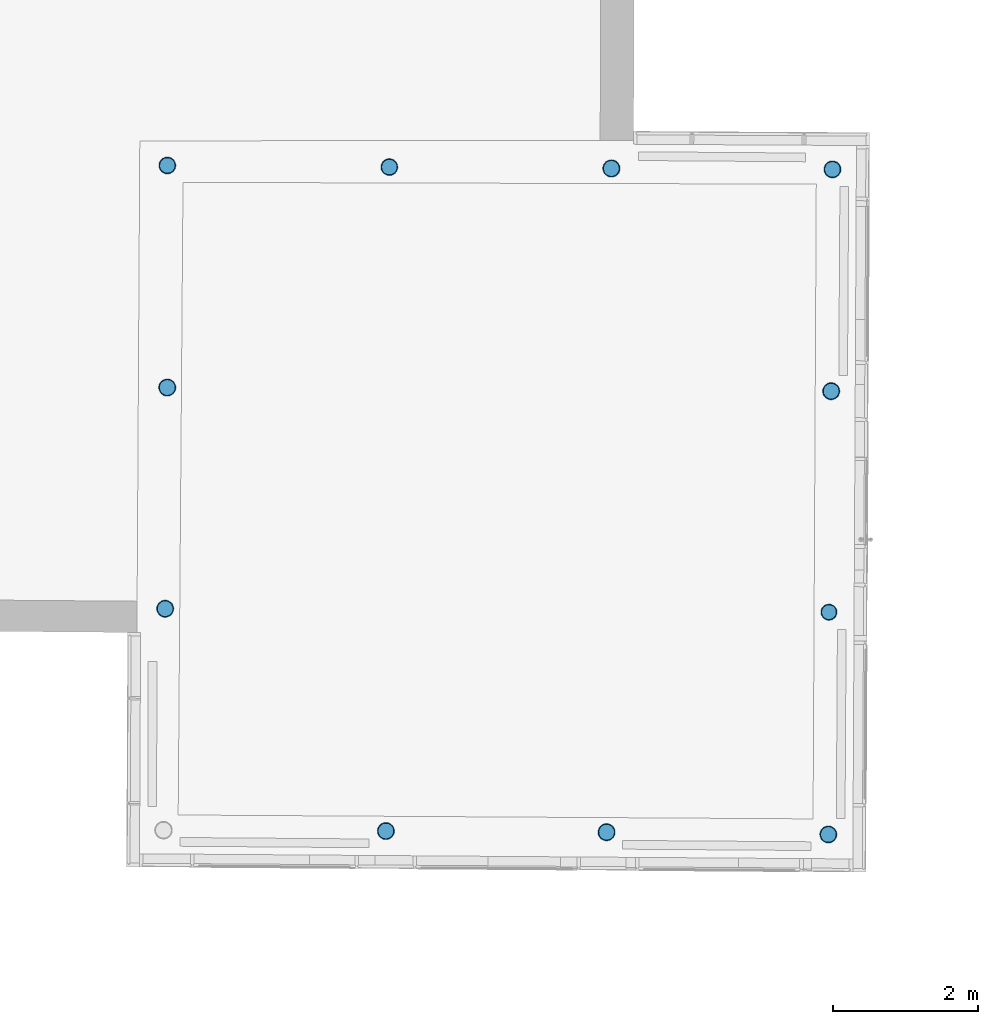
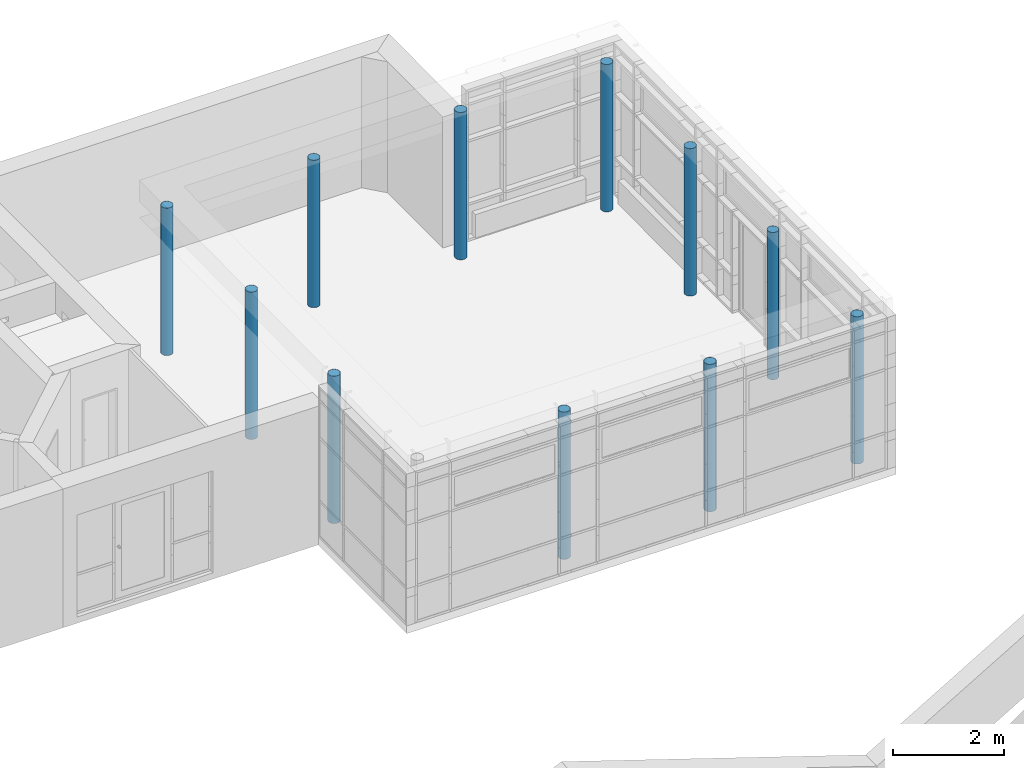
# One storey, part 63 of 196: 22 building element parts, 11 elements without a shape of their own.
"""IFC2X3 building model written with IfcOpenShell, lengths in metres."""

from ifc_helpers import new_model, entity, si_unit, converted_unit, derived_unit, money_unit, direction, frame, origin_with_axes, origin_2d_with_axis, place, context, subcontext, project, spatial, circle, hollow_circle, extrude, material, type_object, element, aggregate, save


model = new_model("IFC2X3")

# Units and contexts
model_context = context("Model", 3, precision=1e-05, world=origin_with_axes(), true_north=direction((0.0, 1.0)))
body_context = subcontext(model_context, "Body", "Model", "MODEL_VIEW")
ifc_project = project(units=[si_unit("LENGTHUNIT", "METRE"), si_unit("AREAUNIT", "SQUARE_METRE"), si_unit("VOLUMEUNIT", "CUBIC_METRE"), converted_unit("PLANEANGLEUNIT", "DEGREE", entity("IfcPlaneAngleMeasure", 0.0174532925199), si_unit("PLANEANGLEUNIT", "RADIAN"), dimensions=[0, 0, 0, 0, 0, 0, 0]), money_unit("EUR"), converted_unit("TIMEUNIT", "Year", entity("IfcTimeMeasure", 31556926.0), si_unit("TIMEUNIT", "SECOND"), dimensions=[0, 0, 1, 0, 0, 0, 0]), si_unit("MASSUNIT", "GRAM", prefix="KILO"), si_unit("THERMODYNAMICTEMPERATUREUNIT", "DEGREE_CELSIUS"), si_unit("LUMINOUSINTENSITYUNIT", "LUMEN"), si_unit("ENERGYUNIT", "JOULE", prefix="MEGA"), derived_unit("THERMALCONDUCTANCEUNIT", [(si_unit("POWERUNIT", "WATT"), 1), (si_unit("LENGTHUNIT", "METRE"), -1), (si_unit("THERMODYNAMICTEMPERATUREUNIT", "KELVIN"), -1)]), derived_unit("SPECIFICHEATCAPACITYUNIT", [(si_unit("ENERGYUNIT", "JOULE"), 1), (si_unit("MASSUNIT", "GRAM", prefix="KILO"), -1), (si_unit("THERMODYNAMICTEMPERATUREUNIT", "KELVIN"), -1)]), derived_unit("MASSDENSITYUNIT", [(si_unit("MASSUNIT", "GRAM", prefix="KILO"), 1), (si_unit("VOLUMEUNIT", "CUBIC_METRE"), -1)])], contexts=[model_context])

# Site, building, storey
site_placement = place(None, origin_with_axes())
site = spatial("IfcSite", under=ifc_project, at=site_placement, Name="Gelände", CompositionType="ELEMENT")
building_placement = place(site_placement, origin_with_axes())
building = spatial("IfcBuilding", under=site, at=building_placement, Name="Gebäude", CompositionType="ELEMENT")
storey_placement = place(building_placement, frame((0.0, 0.0, -3.0), z_axis=(0.0, 0.0, 1.0), x_axis=(1.0, 0.0, 0.0)))
storey = spatial("IfcBuildingStorey", under=building, at=storey_placement, Name="KELLERGESCHOSS", CompositionType="ELEMENT", Elevation=-3.0)

# Column, building element parts
column_type_1 = type_object("IfcColumnType", Name="56_Metall, Stahl verzinkt D219", PredefinedType="COLUMN")
column_1_placement = place(storey_placement, frame((8.67332883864, 39.2869997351, 0.609445), z_axis=(0.0, 0.0, 1.0), x_axis=(1.0, 0.0, 0.0)))
column_1 = element("IfcColumn", 1, at=column_1_placement, inside=storey, type_object=column_type_1, Name="Stütze-008", ObjectType="COLUMN")
ifc_material = material(Name="56_Metall, Stahl verzinkt")
building_element_part_1_placement = place(column_1_placement, origin_with_axes())
building_element_part_1 = element("IfcBuildingElementPart", 2, at=building_element_part_1_placement, material=ifc_material, Name="56_Metall, Stahl verzinkt", context=body_context, shape_type="SweptSolid", body=[
    extrude(hollow_circle(Radius=0.109288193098, WallThickness=0.005, at=origin_2d_with_axis()), frame((0.0, 0.0, 0.0), z_axis=(0.0, 0.0, 1.0), x_axis=(0.0198104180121, -0.999803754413, 0.0)), (0.0, 0.0, 1.0), 3.250555),
])
building_element_part_2_placement = place(column_1_placement, origin_with_axes())
building_element_part_2 = element("IfcBuildingElementPart", 3, at=building_element_part_2_placement, material=ifc_material, Name="56_Metall, Stahl verzinkt", context=body_context, shape_type="SweptSolid", body=[
    extrude(circle(Radius=0.104288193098, at=origin_2d_with_axis()), frame((0.0, 0.0, 0.0), z_axis=(0.0, 0.0, 1.0), x_axis=(0.0198104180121, -0.999803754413, 0.0)), (0.0, 0.0, 1.0), 3.250555),
])
aggregate(column_1, [building_element_part_1, building_element_part_2])

column_type_2 = type_object("IfcColumnType", Name="56_Metall, Stahl verzinkt D233", PredefinedType="COLUMN")
column_2_placement = place(storey_placement, frame((5.61448594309, 36.2604159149, 0.609445), z_axis=(0.0, 0.0, 1.0), x_axis=(1.0, 0.0, 0.0)))
column_2 = element("IfcColumn", 4, at=column_2_placement, inside=storey, type_object=column_type_2, Name="Stütze-008", ObjectType="COLUMN")
building_element_part_3_placement = place(column_2_placement, origin_with_axes())
building_element_part_3 = element("IfcBuildingElementPart", 5, at=building_element_part_3_placement, material=ifc_material, Name="56_Metall, Stahl verzinkt", context=body_context, shape_type="SweptSolid", body=[
    extrude(hollow_circle(Radius=0.116274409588, WallThickness=0.005, at=origin_2d_with_axis()), frame((0.0, 0.0, 0.0), z_axis=(0.0, 0.0, 1.0), x_axis=(0.0198104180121, -0.999803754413, 0.0)), (0.0, 0.0, 1.0), 3.250555),
])
building_element_part_4_placement = place(column_2_placement, origin_with_axes())
building_element_part_4 = element("IfcBuildingElementPart", 6, at=building_element_part_4_placement, material=ifc_material, Name="56_Metall, Stahl verzinkt", context=body_context, shape_type="SweptSolid", body=[
    extrude(circle(Radius=0.111274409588, at=origin_2d_with_axis()), frame((0.0, 0.0, 0.0), z_axis=(0.0, 0.0, 1.0), x_axis=(0.0198104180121, -0.999803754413, 0.0)), (0.0, 0.0, 1.0), 3.250555),
])
aggregate(column_2, [building_element_part_3, building_element_part_4])

column_type_3 = type_object("IfcColumnType", Name="56_Metall, Stahl verzinkt D231", PredefinedType="COLUMN")
column_3_placement = place(storey_placement, frame((2.57885203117, 36.2764474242, 0.609445), z_axis=(0.0, 0.0, 1.0), x_axis=(1.0, 0.0, 0.0)))
column_3 = element("IfcColumn", 7, at=column_3_placement, inside=storey, type_object=column_type_3, Name="Stütze-008", ObjectType="COLUMN")
building_element_part_5_placement = place(column_3_placement, origin_with_axes())
building_element_part_5 = element("IfcBuildingElementPart", 8, at=building_element_part_5_placement, material=ifc_material, Name="56_Metall, Stahl verzinkt", context=body_context, shape_type="SweptSolid", body=[
    extrude(hollow_circle(Radius=0.115614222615, WallThickness=0.005, at=origin_2d_with_axis()), frame((0.0, 0.0, 0.0), z_axis=(0.0, 0.0, 1.0), x_axis=(0.0198104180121, -0.999803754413, 0.0)), (0.0, 0.0, 1.0), 3.250555),
])
building_element_part_6_placement = place(column_3_placement, origin_with_axes())
building_element_part_6 = element("IfcBuildingElementPart", 9, at=building_element_part_6_placement, material=ifc_material, Name="56_Metall, Stahl verzinkt", context=body_context, shape_type="SweptSolid", body=[
    extrude(circle(Radius=0.110614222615, at=origin_2d_with_axis()), frame((0.0, 0.0, 0.0), z_axis=(0.0, 0.0, 1.0), x_axis=(0.0198104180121, -0.999803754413, 0.0)), (0.0, 0.0, 1.0), 3.250555),
])
aggregate(column_3, [building_element_part_5, building_element_part_6])

column_type_4 = type_object("IfcColumnType", Name="56_Metall, Stahl verzinkt D232", PredefinedType="COLUMN")
column_4_placement = place(storey_placement, frame((-0.427959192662, 42.3772171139, 0.609445), z_axis=(0.0, 0.0, 1.0), x_axis=(1.0, 0.0, 0.0)))
column_4 = element("IfcColumn", 10, at=column_4_placement, inside=storey, type_object=column_type_4, Name="Stütze-008", ObjectType="COLUMN")
building_element_part_7_placement = place(column_4_placement, origin_with_axes())
building_element_part_7 = element("IfcBuildingElementPart", 11, at=building_element_part_7_placement, material=ifc_material, Name="56_Metall, Stahl verzinkt", context=body_context, shape_type="SweptSolid", body=[
    extrude(hollow_circle(Radius=0.116248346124, WallThickness=0.005, at=origin_2d_with_axis()), frame((0.0, 0.0, 0.0), z_axis=(0.0, 0.0, 1.0), x_axis=(0.0198104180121, -0.999803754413, 0.0)), (0.0, 0.0, 1.0), 3.250555),
])
building_element_part_8_placement = place(column_4_placement, origin_with_axes())
building_element_part_8 = element("IfcBuildingElementPart", 12, at=building_element_part_8_placement, material=ifc_material, Name="56_Metall, Stahl verzinkt", context=body_context, shape_type="SweptSolid", body=[
    extrude(circle(Radius=0.111248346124, at=origin_2d_with_axis()), frame((0.0, 0.0, 0.0), z_axis=(0.0, 0.0, 1.0), x_axis=(0.0198104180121, -0.999803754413, 0.0)), (0.0, 0.0, 1.0), 3.250555),
])
aggregate(column_4, [building_element_part_7, building_element_part_8])

column_5_placement = place(storey_placement, frame((8.66540223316, 36.2296116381, 0.609445), z_axis=(0.0, 0.0, 1.0), x_axis=(1.0, 0.0, 0.0)))
column_5 = element("IfcColumn", 13, at=column_5_placement, inside=storey, type_object=column_type_3, Name="Stütze-008", ObjectType="COLUMN")
building_element_part_9_placement = place(column_5_placement, origin_with_axes())
building_element_part_9 = element("IfcBuildingElementPart", 14, at=building_element_part_9_placement, material=ifc_material, Name="56_Metall, Stahl verzinkt", context=body_context, shape_type="SweptSolid", body=[
    extrude(hollow_circle(Radius=0.115614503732, WallThickness=0.005, at=origin_2d_with_axis()), frame((0.0, 0.0, 0.0), z_axis=(0.0, 0.0, 1.0), x_axis=(0.0198104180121, -0.999803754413, 0.0)), (0.0, 0.0, 1.0), 3.250555),
])
building_element_part_10_placement = place(column_5_placement, origin_with_axes())
building_element_part_10 = element("IfcBuildingElementPart", 15, at=building_element_part_10_placement, material=ifc_material, Name="56_Metall, Stahl verzinkt", context=body_context, shape_type="SweptSolid", body=[
    extrude(circle(Radius=0.110614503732, at=origin_2d_with_axis()), frame((0.0, 0.0, 0.0), z_axis=(0.0, 0.0, 1.0), x_axis=(0.0198104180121, -0.999803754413, 0.0)), (0.0, 0.0, 1.0), 3.250555),
])
aggregate(column_5, [building_element_part_9, building_element_part_10])

column_6_placement = place(storey_placement, frame((-0.45714551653, 39.3344400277, 0.609445), z_axis=(0.0, 0.0, 1.0), x_axis=(1.0, 0.0, 0.0)))
column_6 = element("IfcColumn", 16, at=column_6_placement, inside=storey, type_object=column_type_3, Name="Stütze-008", ObjectType="COLUMN")
building_element_part_11_placement = place(column_6_placement, origin_with_axes())
building_element_part_11 = element("IfcBuildingElementPart", 17, at=building_element_part_11_placement, material=ifc_material, Name="56_Metall, Stahl verzinkt", context=body_context, shape_type="SweptSolid", body=[
    extrude(hollow_circle(Radius=0.115402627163, WallThickness=0.005, at=origin_2d_with_axis()), frame((0.0, 0.0, 0.0), z_axis=(0.0, 0.0, 1.0), x_axis=(0.0198104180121, -0.999803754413, 0.0)), (0.0, 0.0, 1.0), 3.250555),
])
building_element_part_12_placement = place(column_6_placement, origin_with_axes())
building_element_part_12 = element("IfcBuildingElementPart", 18, at=building_element_part_12_placement, material=ifc_material, Name="56_Metall, Stahl verzinkt", context=body_context, shape_type="SweptSolid", body=[
    extrude(circle(Radius=0.110402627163, at=origin_2d_with_axis()), frame((0.0, 0.0, 0.0), z_axis=(0.0, 0.0, 1.0), x_axis=(0.0198104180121, -0.999803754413, 0.0)), (0.0, 0.0, 1.0), 3.250555),
])
aggregate(column_6, [building_element_part_11, building_element_part_12])

column_type_5 = type_object("IfcColumnType", Name="56_Metall, Stahl verzinkt D234", PredefinedType="COLUMN")
column_7_placement = place(storey_placement, frame((5.68086145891, 45.3903028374, 0.609445), z_axis=(0.0, 0.0, 1.0), x_axis=(1.0, 0.0, 0.0)))
column_7 = element("IfcColumn", 19, at=column_7_placement, inside=storey, type_object=column_type_5, Name="Stütze-008", ObjectType="COLUMN")
building_element_part_13_placement = place(column_7_placement, origin_with_axes())
building_element_part_13 = element("IfcBuildingElementPart", 20, at=building_element_part_13_placement, material=ifc_material, Name="56_Metall, Stahl verzinkt", context=body_context, shape_type="SweptSolid", body=[
    extrude(hollow_circle(Radius=0.116958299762, WallThickness=0.005, at=origin_2d_with_axis()), frame((0.0, 0.0, 0.0), z_axis=(0.0, 0.0, 1.0), x_axis=(0.0198104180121, -0.999803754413, 0.0)), (0.0, 0.0, 1.0), 3.250555),
])
building_element_part_14_placement = place(column_7_placement, origin_with_axes())
building_element_part_14 = element("IfcBuildingElementPart", 21, at=building_element_part_14_placement, material=ifc_material, Name="56_Metall, Stahl verzinkt", context=body_context, shape_type="SweptSolid", body=[
    extrude(circle(Radius=0.111958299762, at=origin_2d_with_axis()), frame((0.0, 0.0, 0.0), z_axis=(0.0, 0.0, 1.0), x_axis=(0.0198104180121, -0.999803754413, 0.0)), (0.0, 0.0, 1.0), 3.250555),
])
aggregate(column_7, [building_element_part_13, building_element_part_14])

column_8_placement = place(storey_placement, frame((8.7212518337, 45.3778609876, 0.609445), z_axis=(0.0, 0.0, 1.0), x_axis=(1.0, 0.0, 0.0)))
column_8 = element("IfcColumn", 22, at=column_8_placement, inside=storey, type_object=column_type_3, Name="Stütze-008", ObjectType="COLUMN")
building_element_part_15_placement = place(column_8_placement, origin_with_axes())
building_element_part_15 = element("IfcBuildingElementPart", 23, at=building_element_part_15_placement, material=ifc_material, Name="56_Metall, Stahl verzinkt", context=body_context, shape_type="SweptSolid", body=[
    extrude(hollow_circle(Radius=0.115262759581, WallThickness=0.005, at=origin_2d_with_axis()), frame((0.0, 0.0, 0.0), z_axis=(0.0, 0.0, 1.0), x_axis=(0.0198104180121, -0.999803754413, 0.0)), (0.0, 0.0, 1.0), 3.250555),
])
building_element_part_16_placement = place(column_8_placement, origin_with_axes())
building_element_part_16 = element("IfcBuildingElementPart", 24, at=building_element_part_16_placement, material=ifc_material, Name="56_Metall, Stahl verzinkt", context=body_context, shape_type="SweptSolid", body=[
    extrude(circle(Radius=0.110262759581, at=origin_2d_with_axis()), frame((0.0, 0.0, 0.0), z_axis=(0.0, 0.0, 1.0), x_axis=(0.0198104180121, -0.999803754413, 0.0)), (0.0, 0.0, 1.0), 3.250555),
])
aggregate(column_8, [building_element_part_15, building_element_part_16])

column_type_6 = type_object("IfcColumnType", Name="56_Metall, Stahl verzinkt D229", PredefinedType="COLUMN")
column_9_placement = place(storey_placement, frame((-0.427044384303, 45.4315883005, 0.609445), z_axis=(0.0, 0.0, 1.0), x_axis=(1.0, 0.0, 0.0)))
column_9 = element("IfcColumn", 25, at=column_9_placement, inside=storey, type_object=column_type_6, Name="Stütze-008", ObjectType="COLUMN")
building_element_part_17_placement = place(column_9_placement, origin_with_axes())
building_element_part_17 = element("IfcBuildingElementPart", 26, at=building_element_part_17_placement, material=ifc_material, Name="56_Metall, Stahl verzinkt", context=body_context, shape_type="SweptSolid", body=[
    extrude(hollow_circle(Radius=0.11467009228, WallThickness=0.005, at=origin_2d_with_axis()), frame((0.0, 0.0, 0.0), z_axis=(0.0, 0.0, 1.0), x_axis=(0.0198104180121, -0.999803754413, 0.0)), (0.0, 0.0, 1.0), 3.250555),
])
building_element_part_18_placement = place(column_9_placement, origin_with_axes())
building_element_part_18 = element("IfcBuildingElementPart", 27, at=building_element_part_18_placement, material=ifc_material, Name="56_Metall, Stahl verzinkt", context=body_context, shape_type="SweptSolid", body=[
    extrude(circle(Radius=0.10967009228, at=origin_2d_with_axis()), frame((0.0, 0.0, 0.0), z_axis=(0.0, 0.0, 1.0), x_axis=(0.0198104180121, -0.999803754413, 0.0)), (0.0, 0.0, 1.0), 3.250555),
])
aggregate(column_9, [building_element_part_17, building_element_part_18])

column_10_placement = place(storey_placement, frame((8.7039765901, 42.3268318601, 0.609445), z_axis=(0.0, 0.0, 1.0), x_axis=(1.0, 0.0, 0.0)))
column_10 = element("IfcColumn", 28, at=column_10_placement, inside=storey, type_object=column_type_4, Name="Stütze-008", ObjectType="COLUMN")
building_element_part_19_placement = place(column_10_placement, origin_with_axes())
building_element_part_19 = element("IfcBuildingElementPart", 29, at=building_element_part_19_placement, material=ifc_material, Name="56_Metall, Stahl verzinkt", context=body_context, shape_type="SweptSolid", body=[
    extrude(hollow_circle(Radius=0.116014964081, WallThickness=0.005, at=origin_2d_with_axis()), frame((0.0, 0.0, 0.0), z_axis=(0.0, 0.0, 1.0), x_axis=(0.0198104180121, -0.999803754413, 0.0)), (0.0, 0.0, 1.0), 3.250555),
])
building_element_part_20_placement = place(column_10_placement, origin_with_axes())
building_element_part_20 = element("IfcBuildingElementPart", 30, at=building_element_part_20_placement, material=ifc_material, Name="56_Metall, Stahl verzinkt", context=body_context, shape_type="SweptSolid", body=[
    extrude(circle(Radius=0.111014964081, at=origin_2d_with_axis()), frame((0.0, 0.0, 0.0), z_axis=(0.0, 0.0, 1.0), x_axis=(0.0198104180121, -0.999803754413, 0.0)), (0.0, 0.0, 1.0), 3.250555),
])
aggregate(column_10, [building_element_part_19, building_element_part_20])

column_type_7 = type_object("IfcColumnType", Name="56_Metall, Stahl verzinkt D228", PredefinedType="COLUMN")
column_11_placement = place(storey_placement, frame((2.62637785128, 45.4095514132, 0.609445), z_axis=(0.0, 0.0, 1.0), x_axis=(1.0, 0.0, 0.0)))
column_11 = element("IfcColumn", 31, at=column_11_placement, inside=storey, type_object=column_type_7, Name="Stütze-008", ObjectType="COLUMN")
building_element_part_21_placement = place(column_11_placement, origin_with_axes())
building_element_part_21 = element("IfcBuildingElementPart", 32, at=building_element_part_21_placement, material=ifc_material, Name="56_Metall, Stahl verzinkt", context=body_context, shape_type="SweptSolid", body=[
    extrude(hollow_circle(Radius=0.113868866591, WallThickness=0.005, at=origin_2d_with_axis()), frame((0.0, 0.0, 0.0), z_axis=(0.0, 0.0, 1.0), x_axis=(0.0198104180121, -0.999803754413, 0.0)), (0.0, 0.0, 1.0), 3.250555),
])
building_element_part_22_placement = place(column_11_placement, origin_with_axes())
building_element_part_22 = element("IfcBuildingElementPart", 33, at=building_element_part_22_placement, material=ifc_material, Name="56_Metall, Stahl verzinkt", context=body_context, shape_type="SweptSolid", body=[
    extrude(circle(Radius=0.108868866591, at=origin_2d_with_axis()), frame((0.0, 0.0, 0.0), z_axis=(0.0, 0.0, 1.0), x_axis=(0.0198104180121, -0.999803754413, 0.0)), (0.0, 0.0, 1.0), 3.250555),
])
aggregate(column_11, [building_element_part_21, building_element_part_22])

save(model, "model.ifc")
